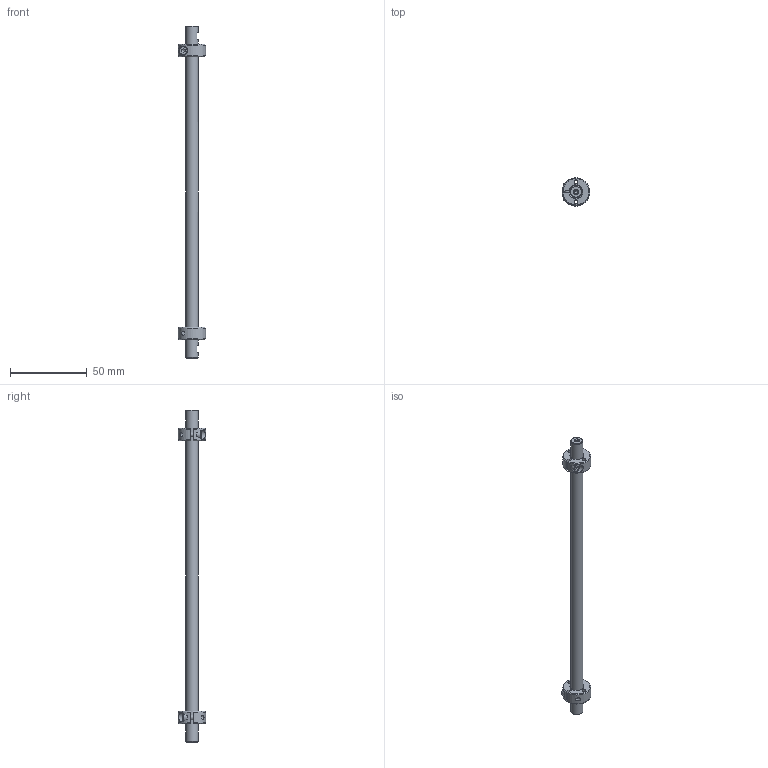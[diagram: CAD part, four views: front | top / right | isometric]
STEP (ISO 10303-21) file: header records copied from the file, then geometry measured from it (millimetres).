
FILE_DESCRIPTION(/* description */ (''),/* implementation_level */ '2;1');
FILE_NAME(/* name */ 'Ballscrew spline assembly_Shrinkwrap_1.stp',/* time_stamp */ '2023-09-11T10:14:49-04:00',/* author */ ('jcoulombe'),/* organization */ (''),/* preprocessor_version */ 'ST-DEVELOPER v19.2',/* originating_system */ 'Autodesk Inventor 2024',/* authorisation */ '');
FILE_SCHEMA (('AUTOMOTIVE_DESIGN { 1 0 10303 214 3 1 1 }'));
Length unit declared in the file: inch
Products named in the file (1): Ballscrew spline assembly_Shrinkwrap_1
Bounding box: 17.97 x 17.93 x 216 mm (x, y, z)
Volume: 13562.8 mm3; surface area: 7738.8 mm2
Topology: 1 solids, 1 shells, 79 faces, 196 edges, 131 vertices
Faces by surface type: plane 34, cylinder 23, cone 18, torus 4
Full cylindrical faces by diameter (mm): 2.459 x2, 2.464 x8, 3 x2, 3.2 x2, 5.5 x2, 8 x1
Entity records: 2727 total; most frequent: CARTESIAN_POINT 733, ORIENTED_EDGE 384, DIRECTION 379, EDGE_CURVE 192, AXIS2_PLACEMENT_3D 151, VERTEX_POINT 131, EDGE_LOOP 107, STYLED_ITEM 80
